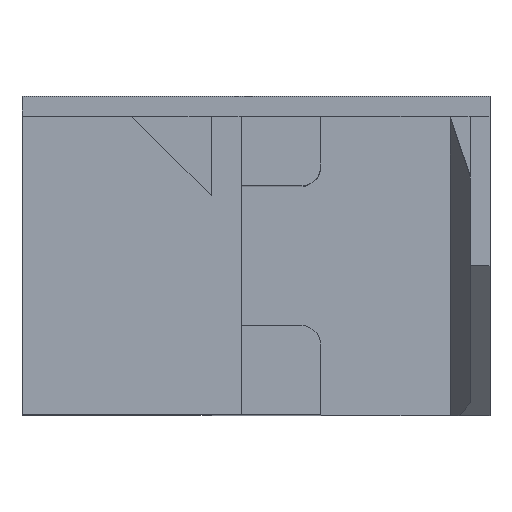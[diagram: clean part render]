
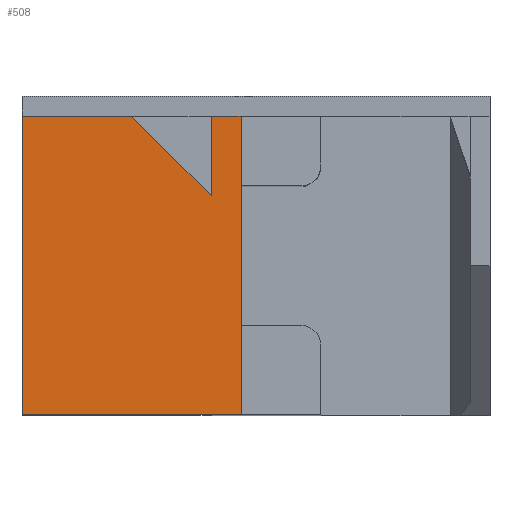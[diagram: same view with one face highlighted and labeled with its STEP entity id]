
A CAD part, top view. The second image highlights one B-rep face of the part: STEP entity #508.
In plain terms, the highlighted planar face has unit normal (0, 0, 1).
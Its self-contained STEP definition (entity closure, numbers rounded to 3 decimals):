
#194 = VERTEX_POINT('',#195);
#195 = CARTESIAN_POINT('',(32.,-7.,5.));
#218 = VERTEX_POINT('',#219);
#219 = CARTESIAN_POINT('',(32.,-21.,5.));
#225 = EDGE_CURVE('',#194,#218,#226,.T.);
#226 = LINE('',#227,#228);
#227 = CARTESIAN_POINT('',(32.,0.,5.));
#228 = VECTOR('',#229,1.);
#229 = DIRECTION('',(0.,-1.,0.));
#434 = VERTEX_POINT('',#435);
#435 = CARTESIAN_POINT('',(10.,0.,5.));
#441 = EDGE_CURVE('',#442,#434,#444,.T.);
#442 = VERTEX_POINT('',#443);
#443 = CARTESIAN_POINT('',(21.,0.,5.));
#444 = LINE('',#445,#446);
#445 = CARTESIAN_POINT('',(32.,0.,5.));
#446 = VECTOR('',#447,1.);
#447 = DIRECTION('',(-1.,0.,0.));
#450 = VERTEX_POINT('',#451);
#451 = CARTESIAN_POINT('',(29.,0.,5.));
#457 = EDGE_CURVE('',#458,#450,#460,.T.);
#458 = VERTEX_POINT('',#459);
#459 = CARTESIAN_POINT('',(32.,0.,5.));
#460 = LINE('',#461,#462);
#461 = CARTESIAN_POINT('',(32.,0.,5.));
#462 = VECTOR('',#463,1.);
#463 = DIRECTION('',(-1.,0.,0.));
#495 = EDGE_CURVE('',#458,#194,#496,.T.);
#496 = LINE('',#497,#498);
#497 = CARTESIAN_POINT('',(32.,0.,5.));
#498 = VECTOR('',#499,1.);
#499 = DIRECTION('',(0.,-1.,0.));
#508 = ADVANCED_FACE('',(#509),#551,.F.);
#509 = FACE_BOUND('',#510,.F.);
#510 = EDGE_LOOP('',(#511,#512,#513,#514,#522,#530,#536,#537,#545));
#511 = ORIENTED_EDGE('',*,*,#457,.F.);
#512 = ORIENTED_EDGE('',*,*,#495,.T.);
#513 = ORIENTED_EDGE('',*,*,#225,.T.);
#514 = ORIENTED_EDGE('',*,*,#515,.T.);
#515 = EDGE_CURVE('',#218,#516,#518,.T.);
#516 = VERTEX_POINT('',#517);
#517 = CARTESIAN_POINT('',(32.,-30.,5.));
#518 = LINE('',#519,#520);
#519 = CARTESIAN_POINT('',(32.,0.,5.));
#520 = VECTOR('',#521,1.);
#521 = DIRECTION('',(0.,-1.,0.));
#522 = ORIENTED_EDGE('',*,*,#523,.T.);
#523 = EDGE_CURVE('',#516,#524,#526,.T.);
#524 = VERTEX_POINT('',#525);
#525 = CARTESIAN_POINT('',(10.,-30.,5.));
#526 = LINE('',#527,#528);
#527 = CARTESIAN_POINT('',(32.,-30.,5.));
#528 = VECTOR('',#529,1.);
#529 = DIRECTION('',(-1.,0.,0.));
#530 = ORIENTED_EDGE('',*,*,#531,.F.);
#531 = EDGE_CURVE('',#434,#524,#532,.T.);
#532 = LINE('',#533,#534);
#533 = CARTESIAN_POINT('',(10.,0.,5.));
#534 = VECTOR('',#535,1.);
#535 = DIRECTION('',(0.,-1.,0.));
#536 = ORIENTED_EDGE('',*,*,#441,.F.);
#537 = ORIENTED_EDGE('',*,*,#538,.F.);
#538 = EDGE_CURVE('',#539,#442,#541,.T.);
#539 = VERTEX_POINT('',#540);
#540 = CARTESIAN_POINT('',(29.,-8.,5.));
#541 = LINE('',#542,#543);
#542 = CARTESIAN_POINT('',(29.,-8.,5.));
#543 = VECTOR('',#544,1.);
#544 = DIRECTION('',(-0.707,0.707,0.));
#545 = ORIENTED_EDGE('',*,*,#546,.F.);
#546 = EDGE_CURVE('',#450,#539,#547,.T.);
#547 = LINE('',#548,#549);
#548 = CARTESIAN_POINT('',(29.,0.,5.));
#549 = VECTOR('',#550,1.);
#550 = DIRECTION('',(0.,-1.,0.));
#551 = PLANE('',#552);
#552 = AXIS2_PLACEMENT_3D('',#553,#554,#555);
#553 = CARTESIAN_POINT('',(32.,0.,5.));
#554 = DIRECTION('',(0.,0.,-1.));
#555 = DIRECTION('',(-1.,0.,0.));
